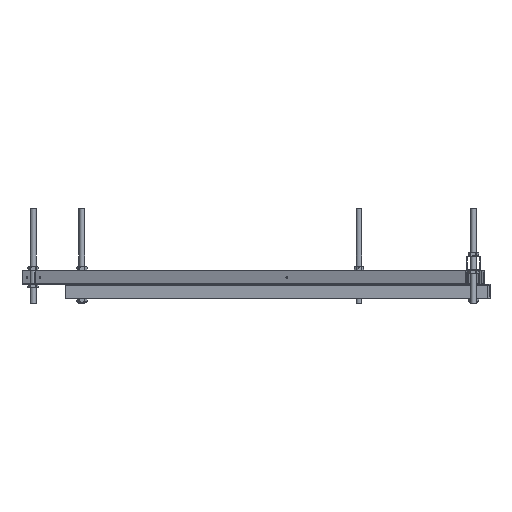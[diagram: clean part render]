
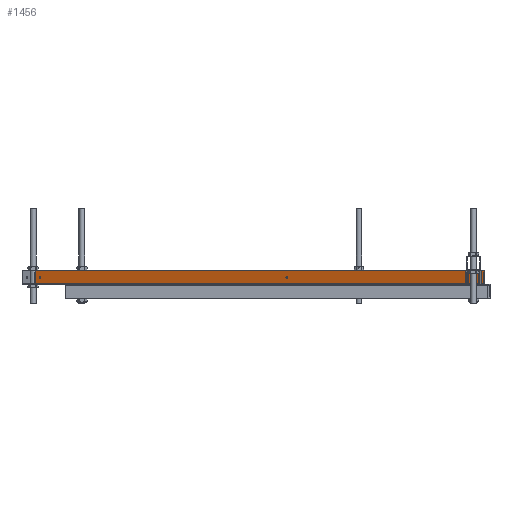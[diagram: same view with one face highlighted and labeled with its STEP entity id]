
A CAD part, left-side view. The second image highlights one B-rep face of the part: STEP entity #1456.
In plain terms, the highlighted planar face has unit normal (-0.293, -0.956, 0).
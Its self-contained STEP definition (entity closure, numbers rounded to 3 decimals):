
#191=LINE('',#7988,#371);
#201=LINE('',#8009,#381);
#208=LINE('',#8030,#388);
#209=LINE('',#8031,#389);
#371=VECTOR('',#6086,1.);
#381=VECTOR('',#6098,1.);
#388=VECTOR('',#6117,1.);
#389=VECTOR('',#6118,1.);
#1143=FACE_BOUND('',#2162,.T.);
#1144=FACE_BOUND('',#2163,.T.);
#1145=FACE_BOUND('',#2164,.T.);
#1456=ADVANCED_FACE('',(#1143,#1144,#1145),#1638,.T.);
#1638=PLANE('',#5038);
#2162=EDGE_LOOP('',(#3157));
#2163=EDGE_LOOP('',(#3158));
#2164=EDGE_LOOP('',(#3159,#3160,#3161,#3162));
#3157=ORIENTED_EDGE('',*,*,#4111,.F.);
#3158=ORIENTED_EDGE('',*,*,#4112,.F.);
#3159=ORIENTED_EDGE('',*,*,#4113,.F.);
#3160=ORIENTED_EDGE('',*,*,#4102,.F.);
#3161=ORIENTED_EDGE('',*,*,#4114,.T.);
#3162=ORIENTED_EDGE('',*,*,#4092,.T.);
#3591=VERTEX_POINT('',#7986);
#3593=VERTEX_POINT('',#7989);
#3600=VERTEX_POINT('',#8004);
#3602=VERTEX_POINT('',#8008);
#3609=VERTEX_POINT('',#8027);
#3610=VERTEX_POINT('',#8029);
#4092=EDGE_CURVE('',#3593,#3591,#191,.T.);
#4102=EDGE_CURVE('',#3602,#3600,#201,.T.);
#4111=EDGE_CURVE('',#3609,#3609,#4581,.T.);
#4112=EDGE_CURVE('',#3610,#3610,#4582,.T.);
#4113=EDGE_CURVE('',#3600,#3591,#208,.T.);
#4114=EDGE_CURVE('',#3602,#3593,#209,.T.);
#4581=CIRCLE('',#5036,2.1);
#4582=CIRCLE('',#5037,2.1);
#5036=AXIS2_PLACEMENT_3D('',#8026,#6113,#6114);
#5037=AXIS2_PLACEMENT_3D('',#8028,#6115,#6116);
#5038=AXIS2_PLACEMENT_3D('',#8032,#6119,#6120);
#6086=DIRECTION('',(0.,0.,1.));
#6098=DIRECTION('',(0.,0.,1.));
#6113=DIRECTION('',(-0.293,-0.956,0.));
#6114=DIRECTION('',(0.,0.,1.));
#6115=DIRECTION('',(-0.293,-0.956,0.));
#6116=DIRECTION('',(0.,0.,1.));
#6117=DIRECTION('',(0.956,-0.293,0.));
#6118=DIRECTION('',(0.956,-0.293,0.));
#6119=DIRECTION('',(-0.293,-0.956,0.));
#6120=DIRECTION('',(0.,0.,1.));
#7986=CARTESIAN_POINT('',(25.732,-23.568,70.));
#7988=CARTESIAN_POINT('',(25.732,-23.568,40.));
#7989=CARTESIAN_POINT('',(25.732,-23.568,40.));
#8004=CARTESIAN_POINT('',(-3062.68,922.271,70.));
#8008=CARTESIAN_POINT('',(-3062.68,922.271,40.));
#8009=CARTESIAN_POINT('',(-3062.68,922.271,40.));
#8026=CARTESIAN_POINT('',(-3032.555,913.045,55.));
#8027=CARTESIAN_POINT('',(-3032.555,913.045,57.1));
#8028=CARTESIAN_POINT('',(-1334.024,392.863,55.));
#8029=CARTESIAN_POINT('',(-1334.024,392.863,57.1));
#8030=CARTESIAN_POINT('',(-3032.555,913.045,70.));
#8031=CARTESIAN_POINT('',(-3062.68,922.271,40.));
#8032=CARTESIAN_POINT('',(-3032.555,913.045,40.));
